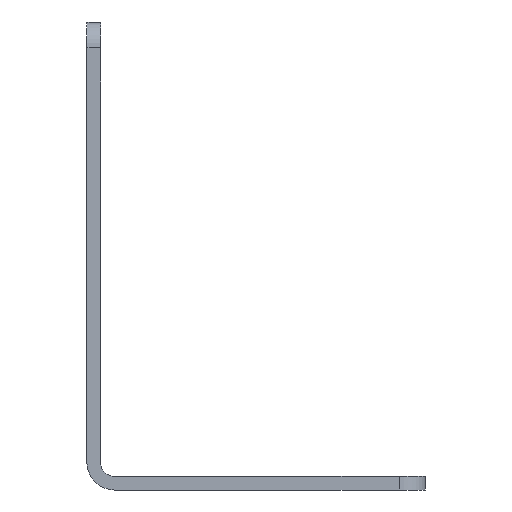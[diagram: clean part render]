
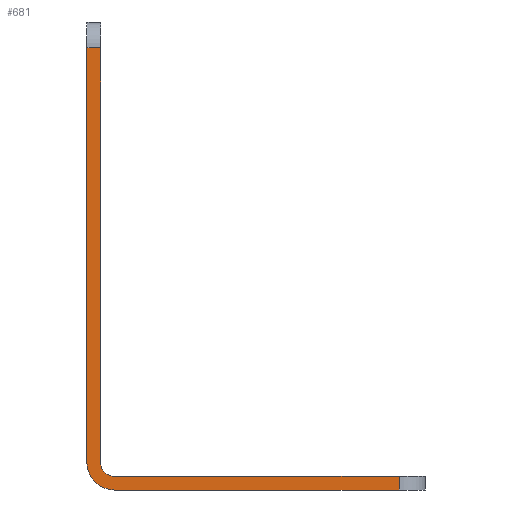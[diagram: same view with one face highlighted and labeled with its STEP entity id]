
A CAD part, left-side view. The second image highlights one B-rep face of the part: STEP entity #681.
In plain terms, the highlighted planar face has unit normal (-1, 0, 0).
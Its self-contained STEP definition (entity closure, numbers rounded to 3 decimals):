
#145=CARTESIAN_POINT('',(-148.329,-105.418,-5.));
#146=VERTEX_POINT('',#145);
#147=CARTESIAN_POINT('',(-148.329,-39.598,-5.));
#148=VERTEX_POINT('',#147);
#149=CARTESIAN_POINT('',(-148.329,-105.418,-5.));
#150=DIRECTION('',(0.,1.,0.));
#151=VECTOR('',#150,65.82);
#152=LINE('',#149,#151);
#153=EDGE_CURVE('',#146,#148,#152,.T.);
#186=CARTESIAN_POINT('',(-148.329,-105.418,-8.18));
#187=VERTEX_POINT('',#186);
#197=CARTESIAN_POINT('',(-148.329,-105.418,-8.18));
#198=DIRECTION('',(0.,0.,1.));
#199=VECTOR('',#198,3.18);
#200=LINE('',#197,#199);
#201=EDGE_CURVE('',#187,#146,#200,.T.);
#213=CARTESIAN_POINT('',(-148.329,-39.598,-8.18));
#214=VERTEX_POINT('',#213);
#215=CARTESIAN_POINT('',(-148.329,-105.418,-8.18));
#216=DIRECTION('',(0.,1.,0.));
#217=VECTOR('',#216,65.82);
#218=LINE('',#215,#217);
#219=EDGE_CURVE('',#187,#214,#218,.T.);
#246=CARTESIAN_POINT('',(-148.329,-33.238,-1.82));
#247=VERTEX_POINT('',#246);
#262=CARTESIAN_POINT('',(-148.329,-39.598,-1.82));
#263=DIRECTION('',(-1.,-0.,-0.));
#264=DIRECTION('',(0.,0.,-1.));
#265=AXIS2_PLACEMENT_3D('',#262,#263,#264);
#266=CIRCLE('',#265,6.36);
#267=EDGE_CURVE('',#247,#214,#266,.T.);
#627=CARTESIAN_POINT('',(-148.329,-36.418,-1.82));
#628=VERTEX_POINT('',#627);
#629=CARTESIAN_POINT('',(-148.329,-39.598,-1.82));
#630=DIRECTION('',(1.,0.,0.));
#631=DIRECTION('',(0.,0.,-1.));
#632=AXIS2_PLACEMENT_3D('',#629,#630,#631);
#633=CIRCLE('',#632,3.18);
#634=EDGE_CURVE('',#148,#628,#633,.T.);
#647=CARTESIAN_POINT('',(-148.329,-111.418,-3.18));
#648=DIRECTION('',(1.,0.,0.));
#649=DIRECTION('',(0.,0.,-1.));
#650=AXIS2_PLACEMENT_3D('',#647,#648,#649);
#651=PLANE('',#650);
#652=CARTESIAN_POINT('',(-148.329,-36.418,94.));
#653=VERTEX_POINT('',#652);
#654=CARTESIAN_POINT('',(-148.329,-36.418,-1.82));
#655=DIRECTION('',(0.,0.,1.));
#656=VECTOR('',#655,95.82);
#657=LINE('',#654,#656);
#658=EDGE_CURVE('',#628,#653,#657,.T.);
#659=ORIENTED_EDGE('',*,*,#658,.T.);
#660=CARTESIAN_POINT('',(-148.329,-33.238,94.));
#661=VERTEX_POINT('',#660);
#662=CARTESIAN_POINT('',(-148.329,-36.418,94.));
#663=DIRECTION('',(0.,1.,0.));
#664=VECTOR('',#663,3.18);
#665=LINE('',#662,#664);
#666=EDGE_CURVE('',#653,#661,#665,.T.);
#667=ORIENTED_EDGE('',*,*,#666,.T.);
#668=CARTESIAN_POINT('',(-148.329,-33.238,-1.82));
#669=DIRECTION('',(-0.,-0.,1.));
#670=VECTOR('',#669,95.82);
#671=LINE('',#668,#670);
#672=EDGE_CURVE('',#247,#661,#671,.T.);
#673=ORIENTED_EDGE('',*,*,#672,.F.);
#674=ORIENTED_EDGE('',*,*,#267,.T.);
#675=ORIENTED_EDGE('',*,*,#219,.F.);
#676=ORIENTED_EDGE('',*,*,#201,.T.);
#677=ORIENTED_EDGE('',*,*,#153,.T.);
#678=ORIENTED_EDGE('',*,*,#634,.T.);
#679=EDGE_LOOP('',(#659,#667,#673,#674,#675,#676,#677,#678));
#680=FACE_BOUND('',#679,.T.);
#681=ADVANCED_FACE('',(#680),#651,.F.);
